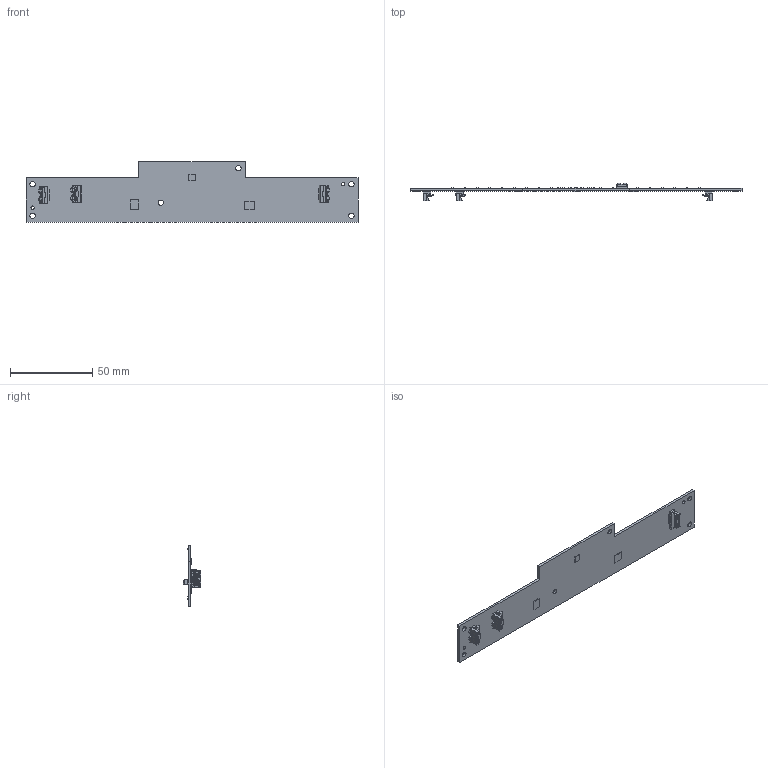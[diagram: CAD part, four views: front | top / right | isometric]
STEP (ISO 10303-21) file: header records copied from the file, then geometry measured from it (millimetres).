
FILE_DESCRIPTION((''),'2;1');
FILE_NAME('LED_PCB_ASSY_ASM','2020-12-04T',('g6007893'),(''),'PRO/ENGINEER BY PARAMETRIC TECHNOLOGY CORPORATION, 2013320','PRO/ENGINEER BY PARAMETRIC TECHNOLOGY CORPORATION, 2013320','');
FILE_SCHEMA(('AUTOMOTIVE_DESIGN { 1 0 10303 214 1 1 1 1 }'));
Length unit declared in the file: millimetre
Products named in the file (7): LED_PCB; LED_EVERLIGHT_R6GHY5C_1_1_1; LP5024-DRIVER-IC; LP5036-DRIVER-IC; IR_RECEIVER; 5022311500; LED_PCB_ASSY_ASM
Assembly tree (34 placements, depth 2):
  LED_PCB_ASSY_ASM
    LED_PCB
    LED_EVERLIGHT_R6GHY5C_1_1_1  x26
    LP5024-DRIVER-IC
    LP5036-DRIVER-IC  x2
    IR_RECEIVER
    5022311500  x3
Bounding box: 202 x 10.85 x 37 mm (x, y, z)
Volume: 10245 mm3; surface area: 15540.9 mm2
Topology: 34 solids, 34 shells, 3243 faces, 9922 edges, 6734 vertices
Faces by surface type: plane 2785, cylinder 454, sphere 4
Entity records: 34355 total; most frequent: CARTESIAN_POINT 6065, ORIENTED_EDGE 5968, DIRECTION 5383, EDGE_CURVE 2984, VECTOR 2633, LINE 2633, VERTEX_POINT 2010, AXIS2_PLACEMENT_3D 1375
